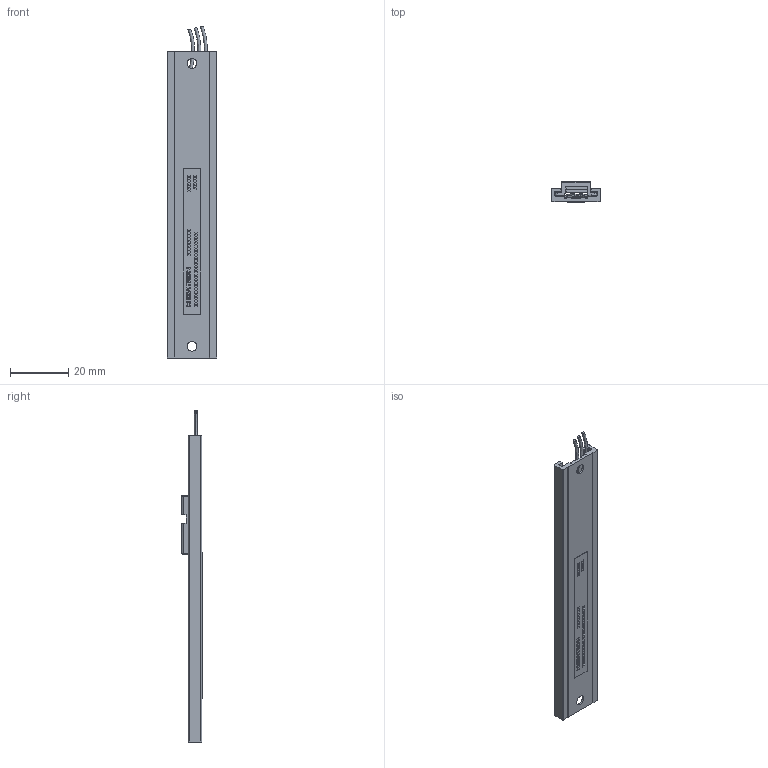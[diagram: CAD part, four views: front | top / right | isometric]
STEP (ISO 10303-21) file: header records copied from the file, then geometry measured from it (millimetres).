
FILE_DESCRIPTION (( 'STEP AP214' ), '1' );
FILE_NAME ('MBX_50.STEP', '2016-11-28T08:17:06', ( '' ), ( '' ), 'SwSTEP 2.0', 'SolidWorks 2016', '' );
FILE_SCHEMA (( 'AUTOMOTIVE_DESIGN' ));
Length unit declared in the file: millimetre
Products named in the file (8): Label 50x6-Vorlage; kabel_dummy_mbx; MBW-Resistor 50; MBW-Schiene 105-50; MBX_Elero_Schleiferträger_Komp_Heraeus Schleifer eingefedert; 32.001.02.hlf.clip_mit Klemme; 32.001.02.hlf.slider_mit Klemme; MBX_50
Assembly tree (7 placements, depth 3):
  MBX_50
    MBX_Elero_Schleiferträger_Komp_Heraeus Schleifer eingefedert
      32.001.02.hlf.slider_mit Klemme
      32.001.02.hlf.clip_mit Klemme
    MBW-Schiene 105-50
    MBW-Resistor 50
    kabel_dummy_mbx
    Label 50x6-Vorlage
Bounding box: 17 x 6.97 x 113.82 mm (x, y, z)
Volume: 4849.2 mm3; surface area: 9993.9 mm2
Topology: 12 solids, 12 shells, 1387 faces, 3748 edges, 2443 vertices
Faces by surface type: plane 888, bspline 311, cylinder 157, sphere 18, torus 8, cone 5
Entity records: 62847 total; most frequent: CARTESIAN_POINT 18541, ORIENTED_EDGE 7460, DIRECTION 5553, EDGE_CURVE 3730, LINE 2757, VECTOR 2757, VERTEX_POINT 2443, EDGE_LOOP 1471
